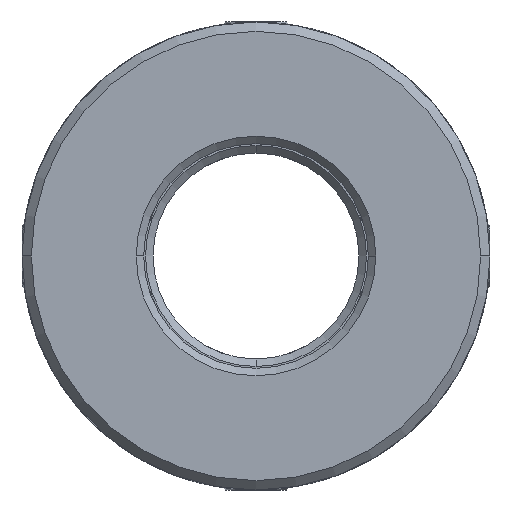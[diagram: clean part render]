
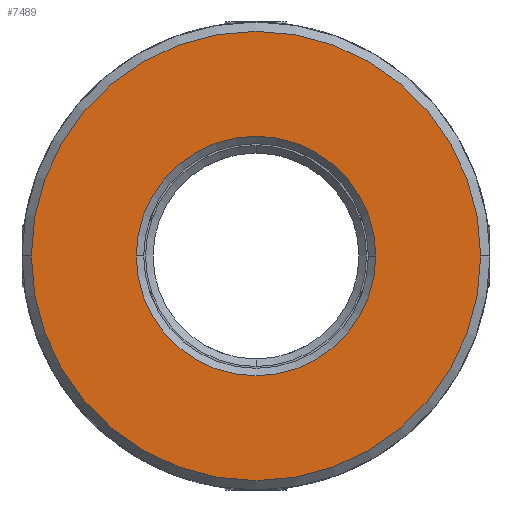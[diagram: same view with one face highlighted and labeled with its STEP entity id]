
A CAD part, front view. The second image highlights one B-rep face of the part: STEP entity #7489.
In plain terms, the highlighted planar face has unit normal (0, -1, 0).
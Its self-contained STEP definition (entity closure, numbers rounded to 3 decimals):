
#257 = DIRECTION ( 'NONE',  ( -1., 0., 0. ) ) ;
#273 = CIRCLE ( 'NONE', #5327, 12. ) ;
#434 = VERTEX_POINT ( 'NONE', #8596 ) ;
#615 = EDGE_CURVE ( 'NONE', #5438, #3339, #7377, .T. ) ;
#1250 = EDGE_CURVE ( 'NONE', #8927, #434, #273, .T. ) ;
#1269 = CARTESIAN_POINT ( 'NONE',  ( 6.4, -28., 0. ) ) ;
#1973 = CIRCLE ( 'NONE', #2779, 6.4 ) ;
#1989 = EDGE_CURVE ( 'NONE', #434, #8927, #9022, .T. ) ;
#2053 = PLANE ( 'NONE',  #6252 ) ;
#2122 = EDGE_LOOP ( 'NONE', ( #3647, #4531 ) ) ;
#2381 = ORIENTED_EDGE ( 'NONE', *, *, #1989, .T. ) ;
#2779 = AXIS2_PLACEMENT_3D ( 'NONE', #5583, #9482, #257 ) ;
#2784 = CARTESIAN_POINT ( 'NONE',  ( -19.597, -28., -50. ) ) ;
#3228 = AXIS2_PLACEMENT_3D ( 'NONE', #9726, #3480, #5821 ) ;
#3339 = VERTEX_POINT ( 'NONE', #9868 ) ;
#3480 = DIRECTION ( 'NONE',  ( 0., 1., 0. ) ) ;
#3518 = ORIENTED_EDGE ( 'NONE', *, *, #1250, .T. ) ;
#3647 = ORIENTED_EDGE ( 'NONE', *, *, #615, .T. ) ;
#4444 = FACE_BOUND ( 'NONE', #2122, .T. ) ;
#4531 = ORIENTED_EDGE ( 'NONE', *, *, #6810, .T. ) ;
#4752 = EDGE_LOOP ( 'NONE', ( #2381, #3518 ) ) ;
#5327 = AXIS2_PLACEMENT_3D ( 'NONE', #8536, #9290, #6960 ) ;
#5438 = VERTEX_POINT ( 'NONE', #1269 ) ;
#5583 = CARTESIAN_POINT ( 'NONE',  ( 0., -28., 0. ) ) ;
#5821 = DIRECTION ( 'NONE',  ( -1., 0., 0. ) ) ;
#5897 = DIRECTION ( 'NONE',  ( -1., 0., 0. ) ) ;
#6252 = AXIS2_PLACEMENT_3D ( 'NONE', #2784, #9793, #5897 ) ;
#6300 = CARTESIAN_POINT ( 'NONE',  ( 12., -28., 0. ) ) ;
#6306 = AXIS2_PLACEMENT_3D ( 'NONE', #9513, #8721, #7162 ) ;
#6810 = EDGE_CURVE ( 'NONE', #3339, #5438, #1973, .T. ) ;
#6960 = DIRECTION ( 'NONE',  ( -1., 0., 0. ) ) ;
#7162 = DIRECTION ( 'NONE',  ( -1., 0., 0. ) ) ;
#7377 = CIRCLE ( 'NONE', #3228, 6.4 ) ;
#7489 = ADVANCED_FACE ( 'NONE', ( #9396, #4444 ), #2053, .F. ) ;
#8536 = CARTESIAN_POINT ( 'NONE',  ( 0., -28., 0. ) ) ;
#8596 = CARTESIAN_POINT ( 'NONE',  ( -12., -28., 0. ) ) ;
#8721 = DIRECTION ( 'NONE',  ( 0., -1., 0. ) ) ;
#8927 = VERTEX_POINT ( 'NONE', #6300 ) ;
#9022 = CIRCLE ( 'NONE', #6306, 12. ) ;
#9290 = DIRECTION ( 'NONE',  ( 0., -1., 0. ) ) ;
#9396 = FACE_OUTER_BOUND ( 'NONE', #4752, .T. ) ;
#9482 = DIRECTION ( 'NONE',  ( 0., 1., 0. ) ) ;
#9513 = CARTESIAN_POINT ( 'NONE',  ( 0., -28., 0. ) ) ;
#9726 = CARTESIAN_POINT ( 'NONE',  ( 0., -28., 0. ) ) ;
#9793 = DIRECTION ( 'NONE',  ( 0., 1., 0. ) ) ;
#9868 = CARTESIAN_POINT ( 'NONE',  ( -6.4, -28., 0. ) ) ;
